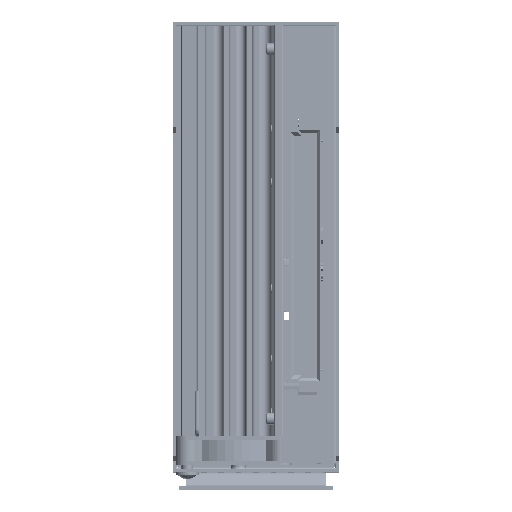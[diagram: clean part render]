
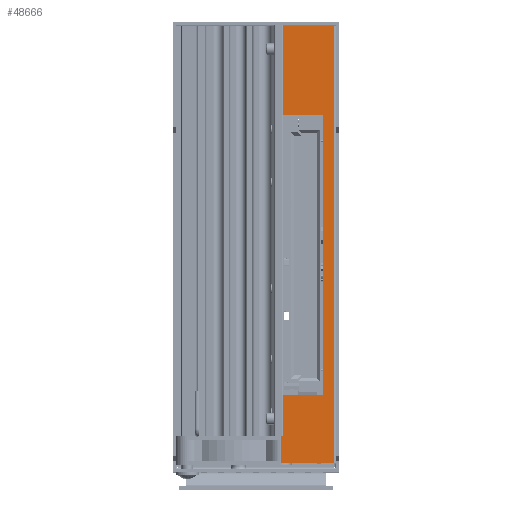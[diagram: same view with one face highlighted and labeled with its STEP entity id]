
A CAD part, top view. The second image highlights one B-rep face of the part: STEP entity #48666.
In plain terms, the highlighted planar face has unit normal (0, 0, 1).
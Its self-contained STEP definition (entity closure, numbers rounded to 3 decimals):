
#48110 = VERTEX_POINT ( 'NONE', #82497 ) ;
#48126 = EDGE_CURVE ( 'NONE', #48130, #48110, #82472, .T. ) ;
#48130 = VERTEX_POINT ( 'NONE', #82467 ) ;
#48414 = VERTEX_POINT ( 'NONE', #83180 ) ;
#48469 = VERTEX_POINT ( 'NONE', #83289 ) ;
#48517 = EDGE_CURVE ( 'NONE', #48469, #48414, #83336, .T. ) ;
#48590 = EDGE_CURVE ( 'NONE', #48595, #48414, #83547, .T. ) ;
#48595 = VERTEX_POINT ( 'NONE', #83531 ) ;
#48666 = ADVANCED_FACE ( 'NONE', ( #83668 ), #83666, .F. ) ;
#48669 = EDGE_LOOP ( 'NONE', ( #48679, #48688, #48715, #48836, #48854, #48866, #48874, #48881 ) ) ;
#48679 = ORIENTED_EDGE ( 'NONE', *, *, #48126, .T. ) ;
#48688 = ORIENTED_EDGE ( 'NONE', *, *, #48694, .F. ) ;
#48694 = EDGE_CURVE ( 'NONE', #48705, #48110, #83732, .T. ) ;
#48705 = VERTEX_POINT ( 'NONE', #83705 ) ;
#48715 = ORIENTED_EDGE ( 'NONE', *, *, #48832, .F. ) ;
#48716 = VERTEX_POINT ( 'NONE', #83812 ) ;
#48803 = EDGE_CURVE ( 'NONE', #48469, #48130, #83879, .T. ) ;
#48832 = EDGE_CURVE ( 'NONE', #48716, #48705, #84048, .T. ) ;
#48836 = ORIENTED_EDGE ( 'NONE', *, *, #48842, .F. ) ;
#48842 = EDGE_CURVE ( 'NONE', #48847, #48716, #84031, .T. ) ;
#48847 = VERTEX_POINT ( 'NONE', #84016 ) ;
#48854 = ORIENTED_EDGE ( 'NONE', *, *, #48859, .T. ) ;
#48859 = EDGE_CURVE ( 'NONE', #48847, #48595, #84123, .T. ) ;
#48866 = ORIENTED_EDGE ( 'NONE', *, *, #48590, .T. ) ;
#48874 = ORIENTED_EDGE ( 'NONE', *, *, #48517, .F. ) ;
#48881 = ORIENTED_EDGE ( 'NONE', *, *, #48803, .T. ) ;
#82467 = CARTESIAN_POINT ( 'NONE',  ( 37.75, 153.1, 131.622 ) ) ;
#82468 = DIRECTION ( 'NONE',  ( 0., -1., 0. ) ) ;
#82469 = VECTOR ( 'NONE', #82468, 1000. ) ;
#82470 = CARTESIAN_POINT ( 'NONE',  ( 37.75, 3.1, 131.622 ) ) ;
#82472 = LINE ( 'NONE', #82470, #82469 ) ;
#82497 = CARTESIAN_POINT ( 'NONE',  ( 37.75, 122.6, 131.622 ) ) ;
#83180 = CARTESIAN_POINT ( 'NONE',  ( 56.05, 3.1, 131.622 ) ) ;
#83289 = CARTESIAN_POINT ( 'NONE',  ( 56.05, 153.1, 131.622 ) ) ;
#83332 = VECTOR ( 'NONE', #83451, 1000. ) ;
#83334 = CARTESIAN_POINT ( 'NONE',  ( 56.05, 3.1, 131.622 ) ) ;
#83336 = LINE ( 'NONE', #83334, #83332 ) ;
#83451 = DIRECTION ( 'NONE',  ( 0., -1., 0. ) ) ;
#83531 = CARTESIAN_POINT ( 'NONE',  ( 37.75, 3.1, 131.622 ) ) ;
#83541 = DIRECTION ( 'NONE',  ( 1., 0., 0. ) ) ;
#83543 = VECTOR ( 'NONE', #83541, 1000. ) ;
#83545 = CARTESIAN_POINT ( 'NONE',  ( 37.75, 3.1, 131.622 ) ) ;
#83547 = LINE ( 'NONE', #83545, #83543 ) ;
#83658 = DIRECTION ( 'NONE',  ( 1., 0., 0. ) ) ;
#83659 = DIRECTION ( 'NONE',  ( 0., 0., -1. ) ) ;
#83660 = CARTESIAN_POINT ( 'NONE',  ( 37.75, 3.1, 131.622 ) ) ;
#83665 = AXIS2_PLACEMENT_3D ( 'NONE', #83660, #83659, #83658 ) ;
#83666 = PLANE ( 'NONE',  #83665 ) ;
#83668 = FACE_OUTER_BOUND ( 'NONE', #48669, .T. ) ;
#83705 = CARTESIAN_POINT ( 'NONE',  ( 52.2, 122.6, 131.622 ) ) ;
#83726 = DIRECTION ( 'NONE',  ( -1., 0., 0. ) ) ;
#83728 = VECTOR ( 'NONE', #83726, 1000. ) ;
#83730 = CARTESIAN_POINT ( 'NONE',  ( 37.75, 122.6, 131.622 ) ) ;
#83732 = LINE ( 'NONE', #83730, #83728 ) ;
#83812 = CARTESIAN_POINT ( 'NONE',  ( 52.2, 26.6, 131.622 ) ) ;
#83879 = LINE ( 'NONE', #84000, #83999 ) ;
#83998 = DIRECTION ( 'NONE',  ( -1., 0., 0. ) ) ;
#83999 = VECTOR ( 'NONE', #83998, 1000. ) ;
#84000 = CARTESIAN_POINT ( 'NONE',  ( 37.75, 153.1, 131.622 ) ) ;
#84016 = CARTESIAN_POINT ( 'NONE',  ( 37.75, 26.6, 131.622 ) ) ;
#84026 = DIRECTION ( 'NONE',  ( 1., 0., 0. ) ) ;
#84028 = VECTOR ( 'NONE', #84026, 1000. ) ;
#84030 = CARTESIAN_POINT ( 'NONE',  ( 37.75, 26.6, 131.622 ) ) ;
#84031 = LINE ( 'NONE', #84030, #84028 ) ;
#84045 = DIRECTION ( 'NONE',  ( 0., 1., 0. ) ) ;
#84046 = VECTOR ( 'NONE', #84045, 1000. ) ;
#84047 = CARTESIAN_POINT ( 'NONE',  ( 52.2, 122.6, 131.622 ) ) ;
#84048 = LINE ( 'NONE', #84047, #84046 ) ;
#84119 = DIRECTION ( 'NONE',  ( 0., -1., 0. ) ) ;
#84120 = VECTOR ( 'NONE', #84119, 1000. ) ;
#84121 = CARTESIAN_POINT ( 'NONE',  ( 37.75, 3.1, 131.622 ) ) ;
#84123 = LINE ( 'NONE', #84121, #84120 ) ;
